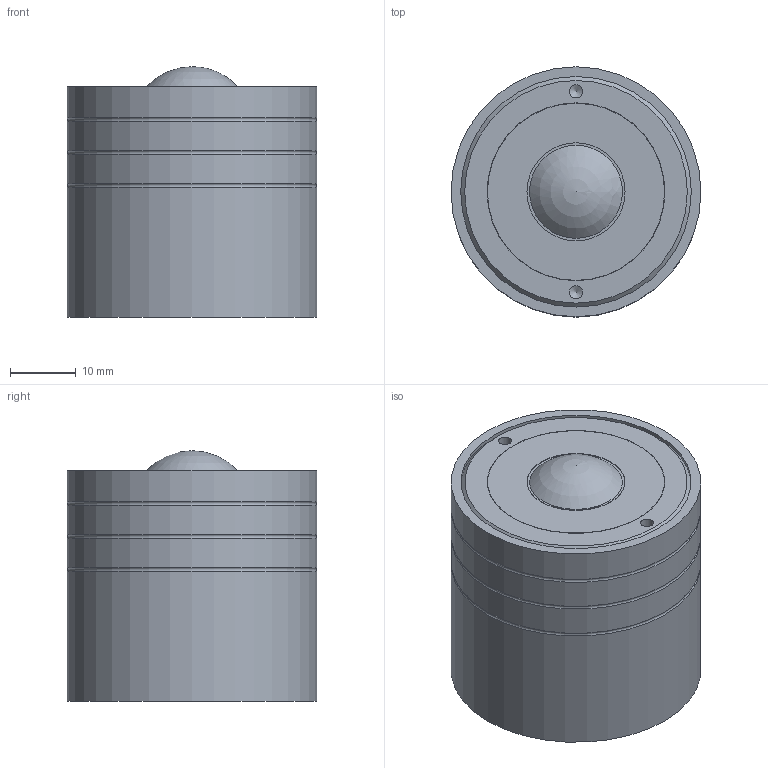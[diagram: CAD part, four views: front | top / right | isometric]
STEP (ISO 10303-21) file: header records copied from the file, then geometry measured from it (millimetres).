
FILE_DESCRIPTION(/* description */ (''),/* implementation_level */ '2;1');
FILE_NAME(/* name */ 'Z:\33-Suga\フリー検討\★web 用 STP化\IS-19BD・CH・EN\IS-19BD・CH・EN.stp',/* time_stamp */ '2015-07-30T14:35:26+09:00',/* author */ ('m-susga'),/* organization */ (''),/* preprocessor_version */ 'ST-DEVELOPER v16.1',/* originating_system */ 'Autodesk Inventor 2016',/* authorisation */ '');
FILE_SCHEMA (('AUTOMOTIVE_DESIGN { 1 0 10303 214 3 1 1 }'));
Length unit declared in the file: millimetre
Products named in the file (1): IS-19BD・CH・EN
Bounding box: 37.95 x 37.95 x 38.03 mm (x, y, z)
Volume: 39710.3 mm3; surface area: 7490.6 mm2
Topology: 1 solids, 1 shells, 25 faces, 46 edges, 28 vertices
Faces by surface type: cylinder 11, plane 7, cone 3, torus 3, sphere 1
Full cylindrical faces by diameter (mm): 2 x2, 6 x1, 14.9 x1, 26.9 x1, 27 x1, 35 x1, 37.95 x4
Entity records: 526 total; most frequent: DIRECTION 100, CARTESIAN_POINT 74, AXIS2_PLACEMENT_3D 50, EDGE_LOOP 48, ORIENTED_EDGE 48, FACE_OUTER_BOUND 25, ADVANCED_FACE 25, CIRCLE 24
